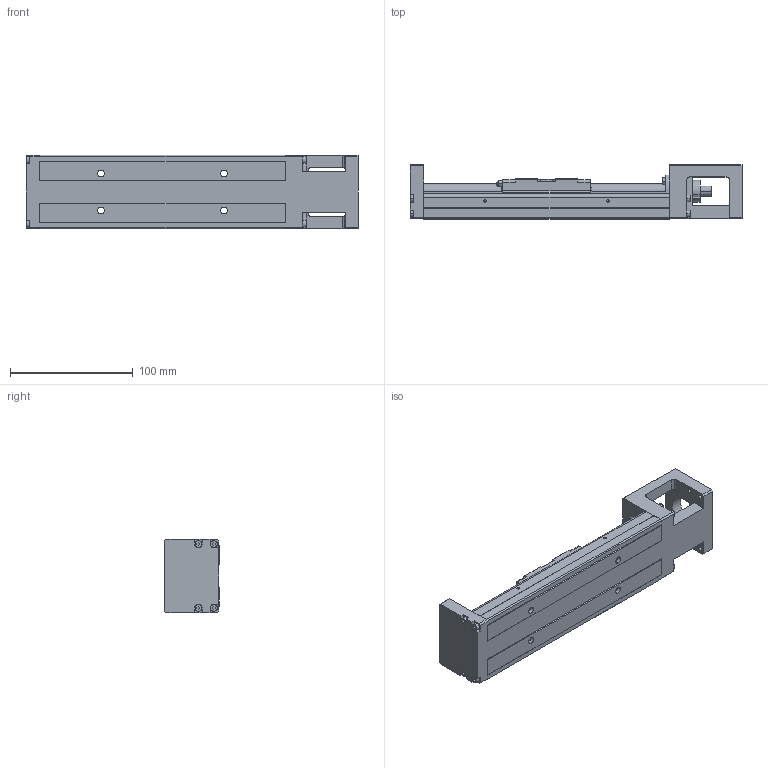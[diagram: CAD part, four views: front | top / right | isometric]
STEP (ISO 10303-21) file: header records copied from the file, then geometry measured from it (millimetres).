
FILE_DESCRIPTION (( 'STEP AP203' ), '1' );
FILE_NAME ('HKK60D5C200A1F0.stp', '2021-11-25T02:12:29', ( '' ), ( '' ), 'SwSTEP 2.0', 'SolidWorks 2018', '' );
FILE_SCHEMA (( 'CONFIG_CONTROL_DESIGN' ));
Length unit declared in the file: millimetre
Products named in the file (1): HKK60D5C200A1F0
Bounding box: 270 x 44.5 x 60 mm (x, y, z)
Volume: 326408.1 mm3; surface area: 90399.3 mm2
Topology: 2 solids, 2 shells, 515 faces, 1358 edges, 875 vertices
Faces by surface type: plane 312, cylinder 159, cone 34, torus 8, sphere 2
Entity records: 15900 total; most frequent: CARTESIAN_POINT 2934, DIRECTION 2674, ORIENTED_EDGE 2648, EDGE_CURVE 1324, VECTOR 954, LINE 954, VERTEX_POINT 875, AXIS2_PLACEMENT_3D 860
